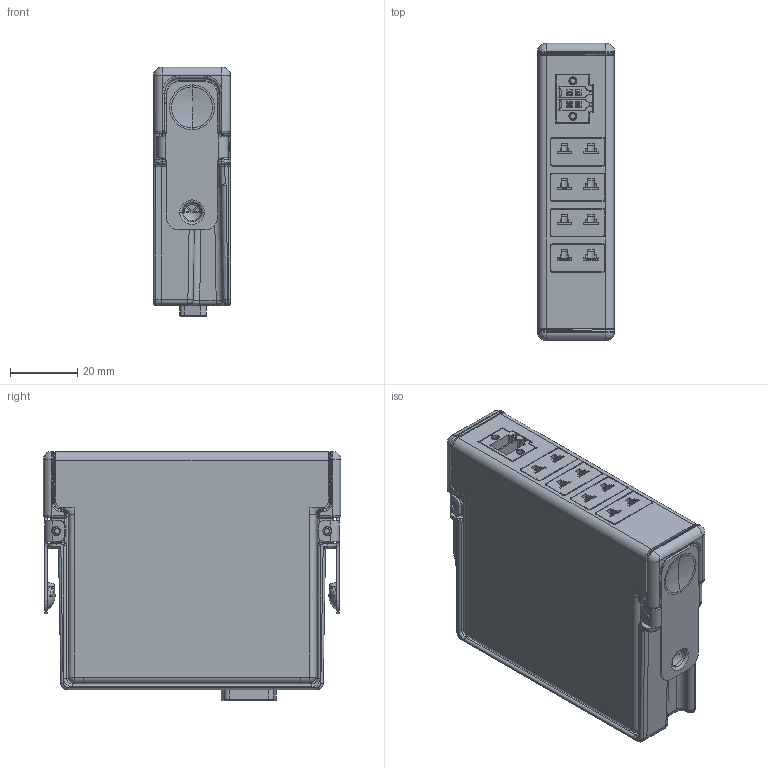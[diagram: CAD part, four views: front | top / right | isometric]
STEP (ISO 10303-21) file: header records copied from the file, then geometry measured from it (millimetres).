
FILE_DESCRIPTION((''),'2;1');
FILE_NAME('CU_NI-9210_MINITC','2017-03-22T',('dkendric'),(''),'CREO PARAMETRIC BY PTC INC, 2015380','CREO PARAMETRIC BY PTC INC, 2015380','');
FILE_SCHEMA(('CONFIG_CONTROL_DESIGN'));
Products named in the file (1): CU_NI-9210_MINITC
Bounding box: 22.86 x 88.11 x 74.04 mm (x, y, z)
Volume: 44796.3 mm3; surface area: 53826.6 mm2
Topology: 18 solids, 18 shells, 2532 faces, 6268 edges, 3787 vertices
Faces by surface type: plane 1086, cylinder 749, bspline 365, sphere 119, torus 112, cone 92, extrusion 9
Entity records: 94006 total; most frequent: CARTESIAN_POINT 36474, ORIENTED_EDGE 12392, DIRECTION 11204, EDGE_CURVE 6196, VERTEX_POINT 3825, AXIS2_PLACEMENT_3D 3813, VECTOR 3578, LINE 3569
